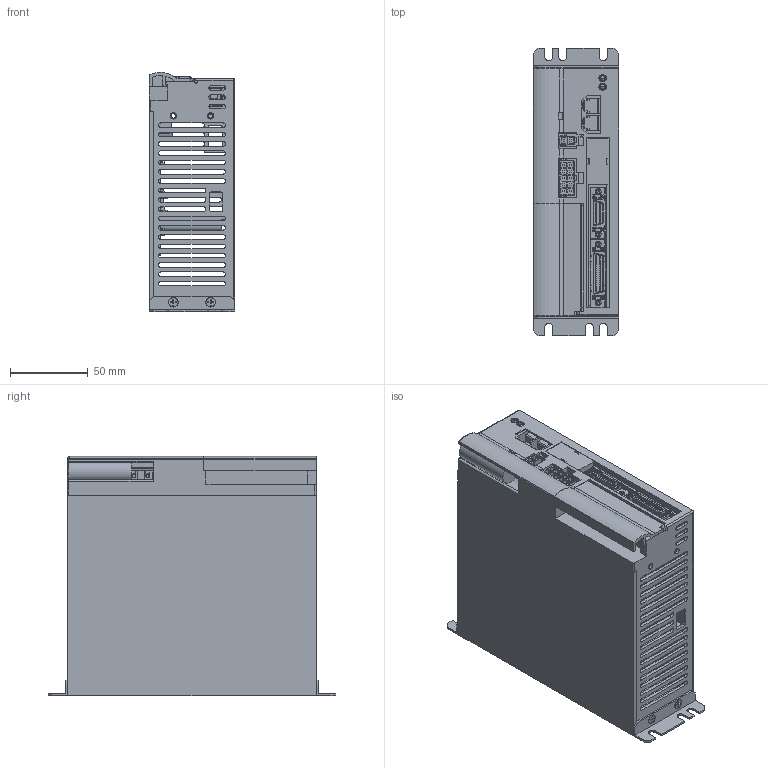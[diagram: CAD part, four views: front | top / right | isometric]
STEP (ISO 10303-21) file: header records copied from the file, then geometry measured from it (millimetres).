
FILE_DESCRIPTION( (''), '2;1');
FILE_NAME ('CA25-S10-_XX_3D.stp','2016-05-25T11:51:19',(''),(''),'spGate 11.3.10','spGate','');
FILE_SCHEMA (('AUTOMOTIVE_DESIGN'));
Length unit declared in the file: millimetre
Products named in the file (220): Assembly; CA25-S10-_XX_3D-prt0; CA25-S10-_XX_3D-prt1; CA25-S10-_XX_3D-prt2; CA25-S10-_XX_3D-prt3; CA25-S10-_XX_3D-prt4; CA25-S10-_XX_3D-prt5; CA25-S10-_XX_3D-prt6; CA25-S10-_XX_3D-prt7; CA25-S10-_XX_3D-prt8; CA25-S10-_XX_3D-prt9; CA25-S10-_XX_3D-prt10; CA25-S10-_XX_3D-prt11; CA25-S10-_XX_3D-prt12; CA25-S10-_XX_3D-prt13; CA25-S10-_XX_3D-prt14; CA25-S10-_XX_3D-prt15; CA25-S10-_XX_3D-prt16; CA25-S10-_XX_3D-prt17; CA25-S10-_XX_3D-prt18; CA25-S10-_XX_3D-prt19; CA25-S10-_XX_3D-prt20; CA25-S10-_XX_3D-prt21; CA25-S10-_XX_3D-prt22; CA25-S10-_XX_3D-prt23; CA25-S10-_XX_3D-prt24; CA25-S10-_XX_3D-prt25; CA25-S10-_XX_3D-prt26; CA25-S10-_XX_3D-prt27; CA25-S10-_XX_3D-prt28; CA25-S10-_XX_3D-prt29; CA25-S10-_XX_3D-prt30; CA25-S10-_XX_3D-prt31; CA25-S10-_XX_3D-prt32; CA25-S10-_XX_3D-prt33; CA25-S10-_XX_3D-prt34; CA25-S10-_XX_3D-prt35; CA25-S10-_XX_3D-prt36; CA25-S10-_XX_3D-prt37; CA25-S10-_XX_3D-prt38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
Assembly tree (219 placements, depth 2):
  Assembly
    CA25-S10-_XX_3D-prt0
    CA25-S10-_XX_3D-prt1
    CA25-S10-_XX_3D-prt2
    CA25-S10-_XX_3D-prt3
    CA25-S10-_XX_3D-prt4
    CA25-S10-_XX_3D-prt5
    CA25-S10-_XX_3D-prt6
    CA25-S10-_XX_3D-prt7
    CA25-S10-_XX_3D-prt8
    CA25-S10-_XX_3D-prt9
    CA25-S10-_XX_3D-prt10
    CA25-S10-_XX_3D-prt11
    CA25-S10-_XX_3D-prt12
    CA25-S10-_XX_3D-prt13
    CA25-S10-_XX_3D-prt14
    CA25-S10-_XX_3D-prt15
    CA25-S10-_XX_3D-prt16
    CA25-S10-_XX_3D-prt17
    CA25-S10-_XX_3D-prt18
    CA25-S10-_XX_3D-prt19
    CA25-S10-_XX_3D-prt20
    CA25-S10-_XX_3D-prt21
    CA25-S10-_XX_3D-prt22
    CA25-S10-_XX_3D-prt23
    CA25-S10-_XX_3D-prt24
    CA25-S10-_XX_3D-prt25
    CA25-S10-_XX_3D-prt26
    CA25-S10-_XX_3D-prt27
    CA25-S10-_XX_3D-prt28
    CA25-S10-_XX_3D-prt29
    CA25-S10-_XX_3D-prt30
    CA25-S10-_XX_3D-prt31
    CA25-S10-_XX_3D-prt32
    CA25-S10-_XX_3D-prt33
    CA25-S10-_XX_3D-prt34
    CA25-S10-_XX_3D-prt35
    CA25-S10-_XX_3D-prt36
    CA25-S10-_XX_3D-prt37
    CA25-S10-_XX_3D-prt38
    CA25-S10-_XX_3D-prt39
    CA25-S10-_XX_3D-prt40
    CA25-S10-_XX_3D-prt41
    CA25-S10-_XX_3D-prt42
    CA25-S10-_XX_3D-prt43
    CA25-S10-_XX_3D-prt44
    CA25-S10-_XX_3D-prt45
    CA25-S10-_XX_3D-prt46
    CA25-S10-_XX_3D-prt47
    CA25-S10-_XX_3D-prt48
    CA25-S10-_XX_3D-prt49
    CA25-S10-_XX_3D-prt50
    CA25-S10-_XX_3D-prt51
    CA25-S10-_XX_3D-prt52
    CA25-S10-_XX_3D-prt53
    CA25-S10-_XX_3D-prt54
    CA25-S10-_XX_3D-prt55
    CA25-S10-_XX_3D-prt56
    CA25-S10-_XX_3D-prt57
    CA25-S10-_XX_3D-prt58
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Bounding box: 55 x 185 x 153.99 mm (x, y, z)
Volume: 219823.3 mm3; surface area: 213775.9 mm2
Topology: 45 solids, 47 shells, 3727 faces, 10485 edges, 7191 vertices
Faces by surface type: plane 2918, cylinder 707, bspline 94, sphere 8
Entity records: 212046 total; most frequent: CARTESIAN_POINT 28759, ORIENTED_EDGE 20572, DIRECTION 19445, COLOUR_RGB 14237, PRESENTATION_STYLE_ASSIGNMENT 14237, STYLED_ITEM 14237, DRAUGHTING_PRE_DEFINED_CURVE_FONT 10463, CURVE_STYLE 10463
